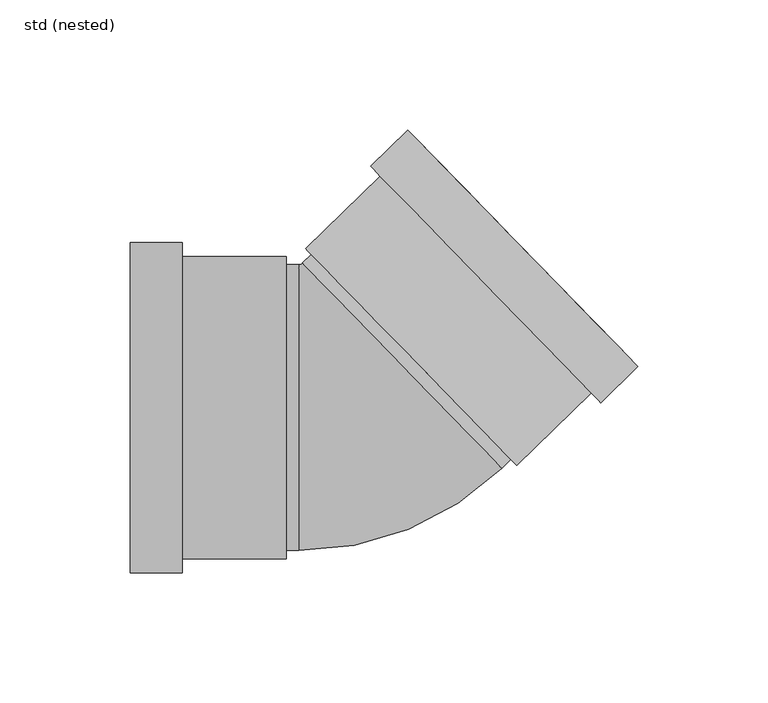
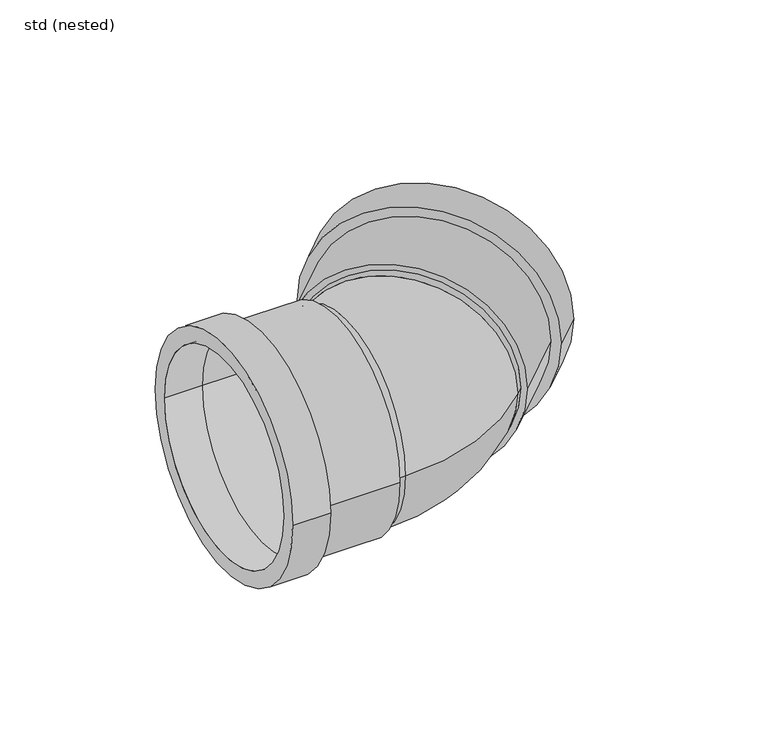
"""IFC4 building model written with IfcOpenShell, lengths in millimetres: pipe fitting geometry, NLRS_52_PIF_UN_SN4 SN8 bocht -SH_Dyka : std (nested)."""

from ifc_helpers import new_model, si_unit, point, frame, origin, place, context, project, spatial, polyline, circle_curve, ellipse_curve, trimmed, source, transform, mapped, element, save
from ifc_brep_helpers import plane_surface, cylinder_surface, revolved_surface, advanced_brep


def std_nested_dd8a20a1(model_context):
    return source(origin(), model_context, "Body", "AdvancedBrep", [
        advanced_brep(
        [(-88.0, -63.5, 0.0), (-88.0, 63.5, 0.0), (-88.0, -55.0, 0.0), (-88.0, 55.0, 0.0), (-68.0, -55.0, 0.0), (-68.0, 55.0, 0.0), (-68.0, -63.5, 0.0), (-68.0, 63.5, 0.0), (-68.0, -58.2, 0.0), (-68.0, 58.2, 0.0), (-28.0, -58.2, 0.0), (-28.0, 58.2, 0.0), (-28.0, -55.0, 0.0), (-28.0, 55.0, 0.0)],
        [
            (0, 1, circle_curve(frame((-88.0, 0.0, 0.0), z_axis=(-1.0, 0.0, 0.0), x_axis=(0.0, 1.0, 0.0)), 63.5)),
            (1, 0, circle_curve(frame((-88.0, 0.0, 0.0), z_axis=(-1.0, 0.0, 0.0), x_axis=(0.0, 1.0, 0.0)), 63.5)),
            (2, 3, circle_curve(frame((-88.0, 0.0, 0.0), z_axis=(1.0, 0.0, 0.0), x_axis=(0.0, 1.0, 0.0)), 55.0)),
            (3, 2, circle_curve(frame((-88.0, 0.0, 0.0), z_axis=(1.0, 0.0, 0.0), x_axis=(0.0, 1.0, 0.0)), 55.0)),
            (2, 4),
            (4, 5, circle_curve(frame((-68.0, 0.0, 0.0), z_axis=(1.0, 0.0, 0.0), x_axis=(0.0, 1.0, 0.0)), 55.0)),
            (5, 3),
            (5, 4, circle_curve(frame((-68.0, 0.0, 0.0), z_axis=(1.0, 0.0, 0.0), x_axis=(0.0, 1.0, 0.0)), 55.0)),
            (0, 6),
            (6, 7, circle_curve(frame((-68.0, 0.0, 0.0), z_axis=(-1.0, 0.0, 0.0), x_axis=(0.0, 1.0, 0.0)), 63.5)),
            (7, 1),
            (7, 6, circle_curve(frame((-68.0, 0.0, 0.0), z_axis=(-1.0, 0.0, 0.0), x_axis=(0.0, 1.0, 0.0)), 63.5)),
            (8, 9, circle_curve(frame((-68.0, 0.0, 0.0), z_axis=(-1.0, 0.0, 0.0), x_axis=(0.0, 1.0, 0.0)), 58.2)),
            (9, 8, circle_curve(frame((-68.0, 0.0, 0.0), z_axis=(-1.0, 0.0, 0.0), x_axis=(0.0, 1.0, 0.0)), 58.2)),
            (10, 11, circle_curve(frame((-28.0, 0.0, 0.0), z_axis=(1.0, 0.0, 0.0), x_axis=(0.0, 1.0, 0.0)), 58.2)),
            (11, 10, circle_curve(frame((-28.0, 0.0, 0.0), z_axis=(1.0, 0.0, 0.0), x_axis=(0.0, 1.0, 0.0)), 58.2)),
            (12, 13, circle_curve(frame((-28.0, 0.0, 0.0), z_axis=(-1.0, 0.0, 0.0), x_axis=(0.0, 1.0, 0.0)), 55.0)),
            (13, 12, circle_curve(frame((-28.0, 0.0, 0.0), z_axis=(-1.0, 0.0, 0.0), x_axis=(0.0, 1.0, 0.0)), 55.0)),
            (13, 5),
            (4, 12),
            (11, 9),
            (8, 10),
        ],
        [
            plane_surface(frame((-88.0, 55.0, 0.0), z_axis=(-1.0, 0.0, 0.0), x_axis=(0.0, 0.0, 1.0))),
            revolved_surface(polyline([(-68.0, 55.0, 0.0), (-88.0, 55.0, 0.0)]), (-68.0, 0.0, 0.0), (1.0, 0.0, 0.0)),
            cylinder_surface(frame((-28.0, 0.0, 0.0), z_axis=(-1.0, 0.0, 0.0), x_axis=(0.0, 1.0, 0.0)), 63.5),
            plane_surface(frame((-68.0, 55.0, 0.0), z_axis=(1.0, 0.0, 0.0), x_axis=(0.0, 0.0, -1.0))),
            plane_surface(frame((-28.0, 55.0, 0.0), z_axis=(1.0, 0.0, 0.0), x_axis=(0.0, 0.0, -1.0))),
            revolved_surface(polyline([(-28.0, 55.0, 0.0), (-68.0, 55.0, 0.0)]), (-28.0, 0.0, 0.0), (1.0, 0.0, 0.0)),
            cylinder_surface(frame((-28.0, 0.0, 0.0), z_axis=(-1.0, 0.0, 0.0), x_axis=(0.0, 1.0, 0.0)), 58.2),
        ],
        [
            (0, [[1, 2], [3, 4]]),
            (1, [[-3, 5, 6, 7]]),
            (1, [[-4, -7, 8, -5]]),
            (2, [[-1, 9, 10, 11]]),
            (2, [[-2, -11, 12, -9]]),
            (3, [[-12, -10], [13, 14]]),
            (4, [[15, 16], [17, 18]]),
            (5, [[-18, 19, -6, 20]]),
            (5, [[-17, -20, -8, -19]]),
            (6, [[-16, 21, -13, 22]]),
            (6, [[-15, -22, -14, -21]]),
        ],
    ),
        advanced_brep(
        [(18.8366282, 106.8710973, 0.0), (107.3608524, 15.8081425, 0.0), (24.7614779, 100.7763326, 0.0), (101.4360028, 21.9029072, 0.0), (10.4208551, 86.8355099, 0.0), (87.09538, 7.9620845, 0.0), (4.4960054, 92.9302746, 0.0), (93.0202296, 1.8673198, 0.0), (-20.4909222, 61.2483641, 0.0), (60.644666, -22.2140606, 0.0), (-18.2603905, 58.9538645, 0.0), (58.4141344, -19.9195609, 0.0), (89.3259116, 5.6675849, 0.0), (8.1903234, 89.1300095, 0.0)],
        [
            (0, 1, circle_curve(frame((63.0987403, 61.3396199, 0.0), z_axis=(0.7170311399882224, 0.6970411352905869, 0.0), x_axis=(0.6970411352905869, -0.7170311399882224, 0.0)), 63.5)),
            (1, 0, circle_curve(frame((63.0987403, 61.3396199, 0.0), z_axis=(0.7170311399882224, 0.6970411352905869, 0.0), x_axis=(0.6970411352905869, -0.7170311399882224, 0.0)), 63.5)),
            (2, 3, circle_curve(frame((63.0987403, 61.3396199, 0.0), z_axis=(-0.7170311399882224, -0.6970411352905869, 0.0), x_axis=(0.6970411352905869, -0.7170311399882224, 0.0)), 55.0)),
            (3, 2, circle_curve(frame((63.0987403, 61.3396199, 0.0), z_axis=(-0.7170311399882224, -0.6970411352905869, 0.0), x_axis=(0.6970411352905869, -0.7170311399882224, 0.0)), 55.0)),
            (2, 4),
            (4, 5, circle_curve(frame((48.7581175, 47.3987972, 0.0), z_axis=(-0.7170311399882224, -0.6970411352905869, 0.0), x_axis=(0.6970411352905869, -0.7170311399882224, 0.0)), 55.0)),
            (5, 3),
            (5, 4, circle_curve(frame((48.7581175, 47.3987972, 0.0), z_axis=(-0.7170311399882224, -0.6970411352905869, 0.0), x_axis=(0.6970411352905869, -0.7170311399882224, 0.0)), 55.0)),
            (0, 6),
            (6, 7, circle_curve(frame((48.7581175, 47.3987972, 0.0), z_axis=(0.7170311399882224, 0.6970411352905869, 0.0), x_axis=(0.6970411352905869, -0.7170311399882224, 0.0)), 63.5)),
            (7, 1),
            (7, 6, circle_curve(frame((48.7581175, 47.3987972, 0.0), z_axis=(0.7170311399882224, 0.6970411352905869, 0.0), x_axis=(0.6970411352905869, -0.7170311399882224, 0.0)), 63.5)),
            (8, 9, circle_curve(frame((20.0768719, 19.5171518, 0.0), z_axis=(-0.7170311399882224, -0.6970411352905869, 0.0), x_axis=(0.6970411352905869, -0.7170311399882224, 0.0)), 58.2)),
            (9, 8, circle_curve(frame((20.0768719, 19.5171518, 0.0), z_axis=(-0.7170311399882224, -0.6970411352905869, 0.0), x_axis=(0.6970411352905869, -0.7170311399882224, 0.0)), 58.2)),
            (10, 11, circle_curve(frame((20.0768719, 19.5171518, 0.0), z_axis=(0.7170311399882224, 0.6970411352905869, 0.0), x_axis=(0.6970411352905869, -0.7170311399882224, 0.0)), 55.0)),
            (11, 10, circle_curve(frame((20.0768719, 19.5171518, 0.0), z_axis=(0.7170311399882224, 0.6970411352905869, 0.0), x_axis=(0.6970411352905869, -0.7170311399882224, 0.0)), 55.0)),
            (11, 5),
            (4, 10),
            (9, 12),
            (12, 13, circle_curve(frame((48.7581175, 47.3987972, 0.0), z_axis=(-0.7170311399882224, -0.6970411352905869, 0.0), x_axis=(0.6970411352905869, -0.7170311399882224, 0.0)), 58.2)),
            (13, 8),
            (13, 12, circle_curve(frame((48.7581175, 47.3987972, 0.0), z_axis=(-0.7170311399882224, -0.6970411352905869, 0.0), x_axis=(0.6970411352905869, -0.7170311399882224, 0.0)), 58.2)),
        ],
        [
            plane_surface(frame((101.4360028, 21.9029072, 0.0), z_axis=(0.7170311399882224, 0.6970411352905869, 0.0), x_axis=(0.0, 0.0, 1.0))),
            revolved_surface(polyline([(87.09537994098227, 7.962084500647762, 0.0), (101.43600276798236, 21.902907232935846, 0.0)]), (48.7581175, 47.3987972, 0.0), (-0.7170311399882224, -0.6970411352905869, 0.0)),
            cylinder_surface(frame((20.0768719, 19.5171518, 0.0), z_axis=(0.7170311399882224, 0.6970411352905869, 0.0), x_axis=(0.6970411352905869, -0.7170311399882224, 0.0)), 63.5),
            plane_surface(frame((58.4141344, -19.9195609, 0.0), z_axis=(-0.7170311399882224, -0.6970411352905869, 0.0), x_axis=(0.0, 0.0, -1.0))),
            revolved_surface(polyline([(58.41413434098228, -19.919560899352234, 0.0), (87.09537996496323, 7.962084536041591, 0.0)]), (20.0768719, 19.5171518, 0.0), (-0.7170311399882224, -0.6970411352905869, 0.0)),
            cylinder_surface(frame((20.0768719, 19.5171518, 0.0), z_axis=(0.7170311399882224, 0.6970411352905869, 0.0), x_axis=(0.6970411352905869, -0.7170311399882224, 0.0)), 58.2),
            plane_surface(frame((87.09538, 7.9620845, 0.0), z_axis=(-0.7170311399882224, -0.6970411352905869, 0.0), x_axis=(0.0, 0.0, -1.0))),
        ],
        [
            (0, [[1, 2], [3, 4]]),
            (1, [[-3, 5, 6, 7]]),
            (1, [[-4, -7, 8, -5]]),
            (2, [[-1, 9, 10, 11]]),
            (2, [[-2, -11, 12, -9]]),
            (3, [[13, 14], [15, 16]]),
            (4, [[-16, 17, -6, 18]]),
            (4, [[-15, -18, -8, -17]]),
            (5, [[-14, 19, 20, 21]]),
            (5, [[-13, -21, 22, -19]]),
            (6, [[-12, -10], [-20, -22]]),
        ],
    ),
        advanced_brep(
        [(-28.0, -55.0, 0.0), (-28.0, 55.0, 0.0), (-23.1395598, -55.0, 0.0), (-23.1395598, 0.0, 55.0), (-23.1395598, 55.0, 0.0), (-23.1395598, 0.0, -55.0), (-21.7454775, 55.5659377, 0.0), (54.9290474, -23.3074877, 0.0), (16.5917849, 16.129225, 55.0), (16.5917849, 16.129225, -55.0), (-18.2603905, 58.9538645, 0.0), (58.4141344, -19.9195609, 0.0)],
        [
            (0, 1, circle_curve(frame((-28.0, 0.0, 0.0), z_axis=(-1.0, 0.0, 0.0), x_axis=(0.0, 1.0, 0.0)), 55.0)),
            (1, 0, circle_curve(frame((-28.0, 0.0, 0.0), z_axis=(-1.0, 0.0, 0.0), x_axis=(0.0, 1.0, 0.0)), 55.0)),
            (0, 2),
            (2, 3, circle_curve(frame((-23.1395598, 0.0, 0.0), z_axis=(-1.0, 0.0, 0.0), x_axis=(0.0, 1.0, 0.0)), 55.0)),
            (3, 4, circle_curve(frame((-23.1395598, 0.0, 0.0), z_axis=(-1.0, 0.0, 0.0), x_axis=(0.0, 1.0, 0.0)), 55.0)),
            (4, 1),
            (4, 5, circle_curve(frame((-23.1395598, 0.0, 0.0), z_axis=(-1.0, 0.0, 0.0), x_axis=(0.0, 1.0, 0.0)), 55.0)),
            (5, 2, circle_curve(frame((-23.1395598, 0.0, 0.0), z_axis=(-1.0, 0.0, 0.0), x_axis=(0.0, 1.0, 0.0)), 55.0)),
            (6, 4, circle_curve(frame((-23.1395598, 57.0, 0.0), z_axis=(0.0, 0.0, -1.0), x_axis=(0.0, -1.0, 0.0)), 2.0)),
            (2, 7, circle_curve(frame((-23.1395598, 57.0, 0.0), z_axis=(0.0, 0.0, 1.0), x_axis=(0.0, -1.0, 0.0)), 112.0)),
            (7, 8, circle_curve(frame((16.5917849, 16.129225, 0.0), z_axis=(-0.71703113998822, -0.6970411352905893, 0.0), x_axis=(-0.6970411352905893, 0.71703113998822, 0.0)), 55.0)),
            (8, 6, circle_curve(frame((16.5917849, 16.129225, 0.0), z_axis=(-0.71703113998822, -0.6970411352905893, 0.0), x_axis=(-0.6970411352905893, 0.71703113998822, 0.0)), 55.0)),
            (6, 9, circle_curve(frame((16.5917849, 16.129225, 0.0), z_axis=(-0.71703113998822, -0.6970411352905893, 0.0), x_axis=(-0.6970411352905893, 0.71703113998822, 0.0)), 55.0)),
            (9, 7, circle_curve(frame((16.5917849, 16.129225, 0.0), z_axis=(-0.7170311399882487, -0.6970411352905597, 0.0), x_axis=(-0.6970411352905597, 0.7170311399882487, 0.0)), 55.0)),
            (10, 11, circle_curve(frame((20.0768719, 19.5171518, 0.0), z_axis=(0.7170311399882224, 0.6970411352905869, 0.0), x_axis=(0.6970411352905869, -0.7170311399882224, 0.0)), 55.0)),
            (11, 10, circle_curve(frame((20.0768719, 19.5171518, 0.0), z_axis=(0.7170311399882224, 0.6970411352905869, 0.0), x_axis=(0.6970411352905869, -0.7170311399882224, 0.0)), 55.0)),
            (10, 6),
            (7, 11),
        ],
        [
            plane_surface(frame((-28.0, 55.0, 0.0), z_axis=(-1.0, 0.0, 0.0), x_axis=(0.0, 0.0, -1.0))),
            cylinder_surface(frame((-23.1395598, 0.0, 0.0), z_axis=(-1.0, 0.0, 0.0), x_axis=(0.0, 1.0, 0.0)), 55.0),
            revolved_surface(trimmed(ellipse_curve(frame((-23.1395598, 0.0, 0.0), z_axis=(-1.0, 0.0, 0.0), x_axis=(0.0, 1.0, 0.0)), 55.0, 55.0), [point((-23.1395598, -55.0, 0.0))], [point((-23.1395598, 55.0, 0.0))], True, "CARTESIAN"), (-23.1395598, 57.0, 0.0), (0.0, 0.0, 1.0)),
            revolved_surface(trimmed(ellipse_curve(frame((-23.1395598, 0.0, 0.0), z_axis=(-1.0, 0.0, 0.0), x_axis=(0.0, 1.0, 0.0)), 55.0, 55.0), [point((-23.1395598, 55.0, 0.0))], [point((-23.1395598, -55.0, 0.0))], True, "CARTESIAN"), (-23.1395598, 57.0, 0.0), (0.0, 0.0, 1.0)),
            plane_surface(frame((58.4141344, -19.9195609, 0.0), z_axis=(0.7170311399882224, 0.6970411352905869, 0.0), x_axis=(0.0, 0.0, -1.0))),
            cylinder_surface(frame((16.5917849, 16.129225, 0.0), z_axis=(0.7170311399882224, 0.6970411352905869, 0.0), x_axis=(0.6970411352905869, -0.7170311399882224, 0.0)), 55.0),
        ],
        [
            (0, [[1, 2]]),
            (1, [[-1, 3, 4, 5, 6]]),
            (1, [[-2, -6, 7, 8, -3]]),
            (2, [[9, -5, -4, 10, 11, 12]]),
            (3, [[-9, 13, 14, -10, -8, -7]]),
            (4, [[15, 16]]),
            (5, [[-15, 17, -12, -11, 18]]),
            (5, [[-16, -18, -14, -13, -17]]),
        ],
    ),
    ])


if __name__ == "__main__":
    model = new_model("IFC4")
    model_context = context("Model", 3, world=origin())
    ifc_project = project(units=[si_unit("LENGTHUNIT", "METRE", prefix="MILLI")], contexts=[model_context])
    site = spatial("IfcSite", under=ifc_project)
    building = spatial("IfcBuilding", under=site)
    placement = place(None, origin())
    std_nested_shape = std_nested_dd8a20a1(model_context)
    element("IfcPipeFitting", 1, ObjectType="NLRS_52_PIF_UN_SN4 SN8 bocht -SH_Dyka : std (nested)", at=placement, inside=building, context=model_context, shape_type="MappedRepresentation", body=[
        mapped(std_nested_shape, transform((0.0, 0.0, 0.0), x_axis=(1.0, 0.0, 0.0), y_axis=(0.0, 1.0, 0.0), z_axis=(0.0, 0.0, 1.0))),
    ])
    save(model, "model.ifc")
